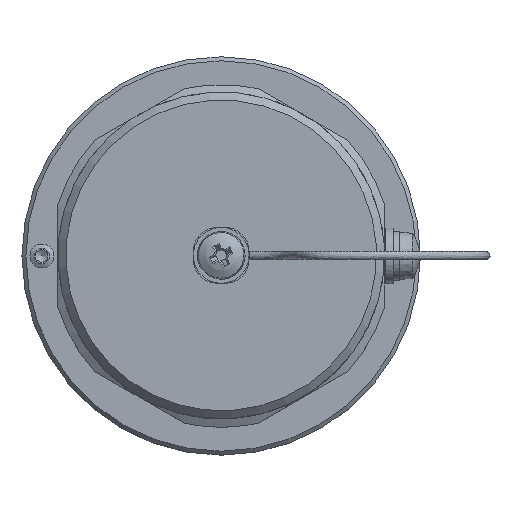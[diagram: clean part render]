
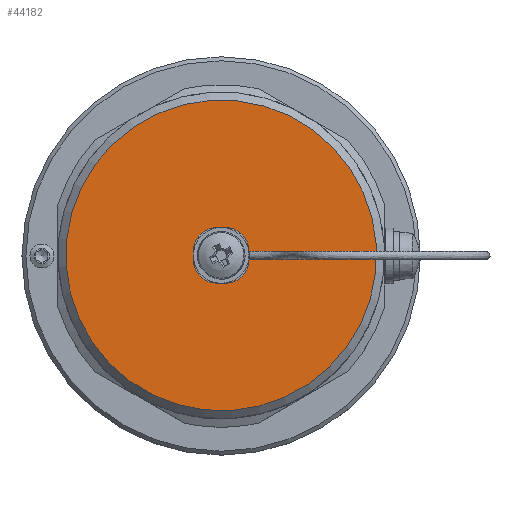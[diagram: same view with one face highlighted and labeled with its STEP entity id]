
A CAD part, top view. The second image highlights one B-rep face of the part: STEP entity #44182.
In plain terms, the highlighted planar face has unit normal (0, 0, 1) by its records, which use the part's own axes.
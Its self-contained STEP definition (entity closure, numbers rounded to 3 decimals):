
#42404=CARTESIAN_POINT('',(0.694,-1.33,43.));
#42405=VERTEX_POINT('',#42404);
#42406=CARTESIAN_POINT('',(0.,0.,43.));
#42407=DIRECTION('',(0.,0.,-1.0));
#42408=DIRECTION('',(-0.463,0.887,0.));
#42409=AXIS2_PLACEMENT_3D('',#42406,#42407,#42408);
#42410=CIRCLE('',#42409,1.5);
#42411=EDGE_CURVE('',#42405,#42405,#42410,.T.);
#44147=CARTESIAN_POINT('',(-8.536,-17.532,43.));
#44148=VERTEX_POINT('',#44147);
#44149=CARTESIAN_POINT('',(0.,0.,43.));
#44150=DIRECTION('',(0.,0.,-1.0));
#44151=DIRECTION('',(0.438,0.899,0.));
#44152=AXIS2_PLACEMENT_3D('',#44149,#44150,#44151);
#44153=CIRCLE('',#44152,19.5);
#44154=EDGE_CURVE('',#44148,#44148,#44153,.T.);
#44171=CARTESIAN_POINT('',(0.,0.,43.));
#44172=DIRECTION('',(0.0,0.0,1.0));
#44173=DIRECTION('',(0.438,0.899,0.0));
#44174=AXIS2_PLACEMENT_3D('',#44171,#44172,#44173);
#44175=PLANE('',#44174);
#44176=ORIENTED_EDGE('',*,*,#44154,.F.);
#44177=EDGE_LOOP('',(#44176));
#44178=FACE_OUTER_BOUND('',#44177,.T.);
#44179=ORIENTED_EDGE('',*,*,#42411,.T.);
#44180=EDGE_LOOP('',(#44179));
#44181=FACE_BOUND('',#44180,.T.);
#44182=ADVANCED_FACE('',(#44178,#44181),#44175,.T.);
